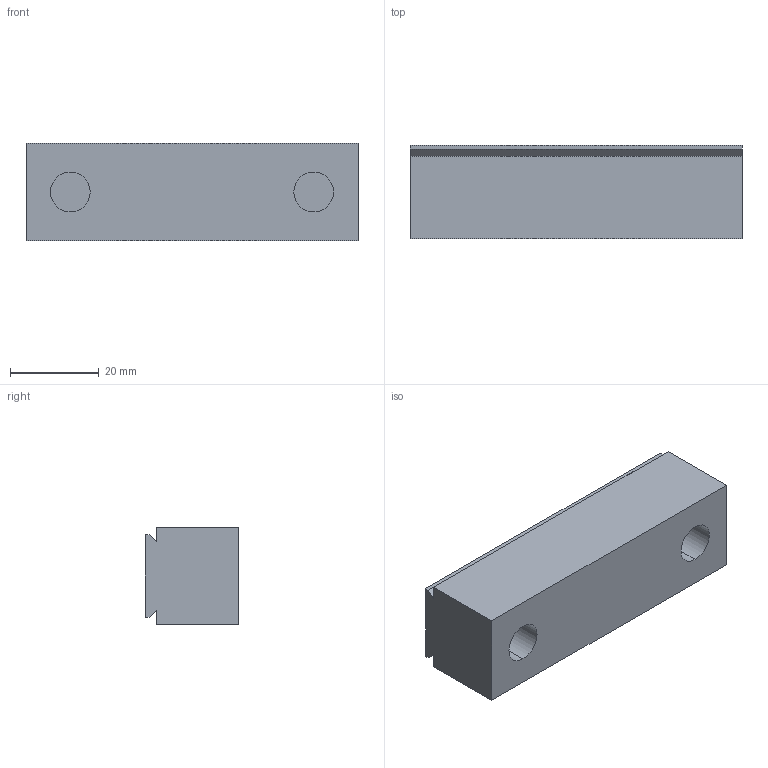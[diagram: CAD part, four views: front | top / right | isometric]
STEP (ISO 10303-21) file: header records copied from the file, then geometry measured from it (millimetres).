
FILE_DESCRIPTION (( 'STEP AP214' ), '1' );
FILE_NAME ('D_V75-5CDV.STEP', '2020-03-13T22:37:37', ( '' ), ( '' ), 'SwSTEP 2.0', 'SolidWorks 2018', '' );
FILE_SCHEMA (( 'AUTOMOTIVE_DESIGN' ));
Length unit declared in the file: millimetre
Products named in the file (1): D_V75-5CDV
Bounding box: 75 x 21.13 x 22 mm (x, y, z)
Volume: 31988.4 mm3; surface area: 9832.3 mm2
Topology: 1 solids, 1 shells, 30 faces, 66 edges, 44 vertices
Faces by surface type: plane 18, cylinder 12
Entity records: 890 total; most frequent: DIRECTION 152, CARTESIAN_POINT 141, ORIENTED_EDGE 132, EDGE_CURVE 66, AXIS2_PLACEMENT_3D 55, VERTEX_POINT 44, VECTOR 42, LINE 42
